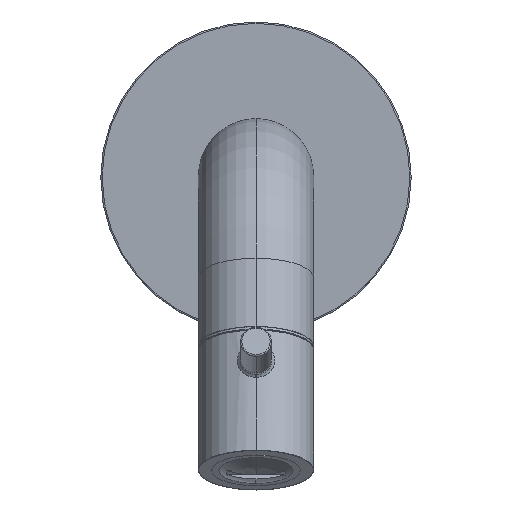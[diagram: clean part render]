
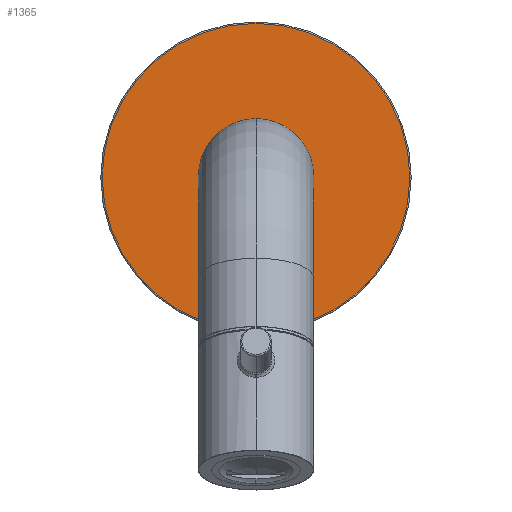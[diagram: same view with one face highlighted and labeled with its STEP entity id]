
A CAD part, top view. The second image highlights one B-rep face of the part: STEP entity #1365.
In plain terms, the highlighted planar face has unit normal (0, 0, 1).
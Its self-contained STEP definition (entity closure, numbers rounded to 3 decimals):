
#1252=CARTESIAN_POINT('',(0.,0.,13.));
#1253=DIRECTION('',(0.,0.,1.));
#1254=DIRECTION('',(-1.,0.,0.));
#1255=AXIS2_PLACEMENT_3D('',#1252,#1253,#1254);
#1257=CARTESIAN_POINT('',(0.,0.,13.));
#1258=DIRECTION('',(0.,0.,1.));
#1259=DIRECTION('',(1.,0.,0.));
#1260=AXIS2_PLACEMENT_3D('',#1257,#1258,#1259);
#1290=CARTESIAN_POINT('',(-34.7,0.,13.));
#1291=CARTESIAN_POINT('',(34.7,0.,13.));
#1292=VERTEX_POINT('',#1290);
#1293=VERTEX_POINT('',#1291);
#1355=CARTESIAN_POINT('',(0.,0.,13.));
#1356=DIRECTION('',(0.,0.,-1.));
#1357=DIRECTION('',(1.,0.,0.));
#1358=AXIS2_PLACEMENT_3D('',#1355,#1356,#1357);
#1359=PLANE('',#1358);
#1360=ORIENTED_EDGE('',*,*,#1345,.F.);
#1362=ORIENTED_EDGE('',*,*,#1361,.F.);
#1363=EDGE_LOOP('',(#1360,#1362));
#1364=FACE_OUTER_BOUND('',#1363,.F.);
#1365=ADVANCED_FACE('',(#1364),#1359,.F.);
#1256=CIRCLE('',#1255,34.7);
#1261=CIRCLE('',#1260,34.7);
#1345=EDGE_CURVE('',#1292,#1293,#1256,.T.);
#1361=EDGE_CURVE('',#1293,#1292,#1261,.T.);
